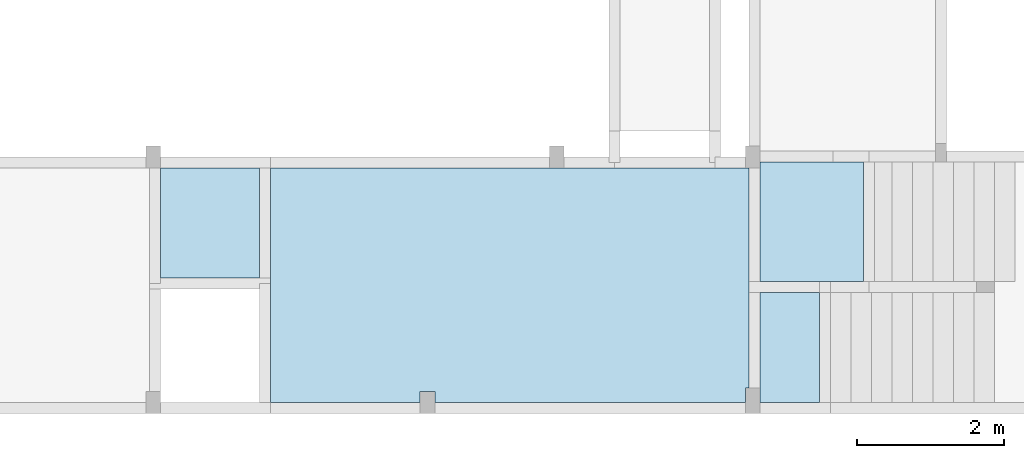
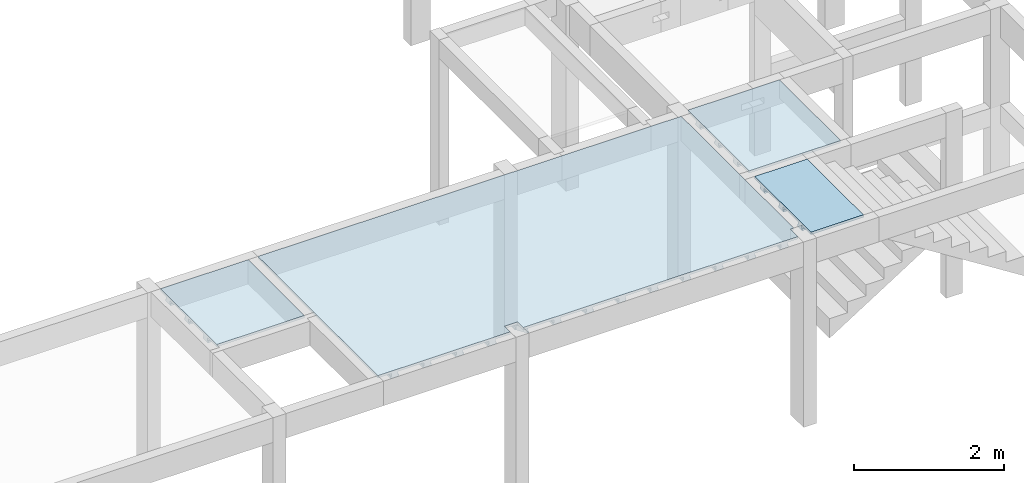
# One storey, part 14 of 21: 4 slabs.
"""IFC4 building model written with IfcOpenShell, lengths in centimetres."""

import ifcopenshell
import ifcopenshell.guid

model = None  # the IFC model being written
_history = None  # IfcOwnerHistory: only IFC2X3 demands one
_inside = {}  # id of a spatial element -> (the spatial element, [elements in it])
_under = {}  # id of a project, library or spatial element -> (it, [spatial elements below it])
_declared = {}  # id of a project -> (the project, [libraries it declares])
_typed = {}  # id of a type object -> (the type object, [elements of that type])
_made_of = {}  # id of a material, layer set ... -> (it, [elements and type objects made of it])


def new_model(schema):
    """Start an empty IFC model of exactly this schema.

    Asked for "IFC4X3", IfcOpenShell would pick the latest addendum, in which some entities
    have other attributes; the version numbers below select the first issue.
    IFC2X3 requires an IfcOwnerHistory on every rooted entity: one is made here for all.
    """
    global model, _history
    if schema == "IFC4X3":
        model = ifcopenshell.file(schema_version=(4, 3, 0, 0))
    else:
        model = ifcopenshell.file(schema=schema)
    _inside.clear()
    _under.clear()
    _declared.clear()
    _typed.clear()
    _made_of.clear()
    _history = None
    if model.schema == "IFC2X3":
        org = make("IfcOrganization", Name="unknown")
        user = make(
            "IfcPersonAndOrganization",
            ThePerson=make("IfcPerson", FamilyName="unknown"),
            TheOrganization=org,
        )
        app = make(
            "IfcApplication",
            ApplicationDeveloper=org,
            Version="unknown",
            ApplicationFullName="unknown",
            ApplicationIdentifier="unknown",
        )
        _history = make(
            "IfcOwnerHistory",
            OwningUser=user,
            OwningApplication=app,
            ChangeAction="ADDED",
            CreationDate=0,
        )
    return model


def make(cls, **values):
    """One entity of the class cls with the attributes given. An attribute that is None is left unset."""
    return model.create_entity(
        cls, **{name: value for name, value in values.items() if value is not None}
    )


def rooted(cls, **values):
    """An entity with a GlobalId (a new one), such as an element, a storey or a relation."""
    return make(cls, GlobalId=ifcopenshell.guid.new(), OwnerHistory=_history, **values)


def si_unit(unit_type, name, prefix=None):
    """IfcSIUnit, for example si_unit("LENGTHUNIT", "METRE", prefix="MILLI")."""
    return make("IfcSIUnit", UnitType=unit_type, Prefix=prefix, Name=name)


def derived_unit(unit_type, elements):
    """IfcDerivedUnit: a product of units, each with its exponent."""
    return make(
        "IfcDerivedUnit",
        Elements=[
            make("IfcDerivedUnitElement", Unit=unit, Exponent=power)
            for unit, power in elements
        ],
        UnitType=unit_type,
    )


def assignment(units):
    """IfcUnitAssignment: the units of a project."""
    return None if units is None else make("IfcUnitAssignment", Units=units)


def point(xyz):
    """IfcCartesianPoint."""
    return None if xyz is None else make("IfcCartesianPoint", Coordinates=xyz)


def direction(xyz):
    """IfcDirection."""
    return None if xyz is None else make("IfcDirection", DirectionRatios=xyz)


def frame(location, z_axis=None, x_axis=None):
    """IfcAxis2Placement3D, a coordinate frame: its origin and axes. An axis left out is left unset."""
    return make(
        "IfcAxis2Placement3D",
        Location=point(location),
        Axis=direction(z_axis),
        RefDirection=direction(x_axis),
    )


def origin_with_axes():
    """The frame at (0, 0, 0) with the z axis (0, 0, 1) and the x axis (1, 0, 0) written out."""
    return frame((0.0, 0.0, 0.0), z_axis=(0.0, 0.0, 1.0), x_axis=(1.0, 0.0, 0.0))


def place(relative_to, where):
    """IfcLocalPlacement: puts the frame where relative to a parent placement (None: the world)."""
    return make(
        "IfcLocalPlacement", PlacementRelTo=relative_to, RelativePlacement=where
    )


def context(
    kind, dimensions, precision=None, world=None, true_north=None, identifier=None
):
    """IfcGeometricRepresentationContext, for example the 3D "Model" context."""
    return make(
        "IfcGeometricRepresentationContext",
        ContextIdentifier=identifier,
        ContextType=kind,
        CoordinateSpaceDimension=dimensions,
        Precision=precision,
        WorldCoordinateSystem=world,
        TrueNorth=true_north,
    )


def project(units=None, contexts=None):
    """IfcProject with its units and contexts."""
    return rooted(
        "IfcProject",
        Name="project",
        RepresentationContexts=contexts,
        UnitsInContext=assignment(units),
    )


def spatial(cls, under=None, at=None, **own):
    """A site, building, storey or space (cls), placed at a placement, below another one or the project."""
    s = rooted(cls, ObjectPlacement=at, **own)
    if under is not None:
        _under.setdefault(under.id(), (under, []))[1].append(s)
    return s


def polyline(points):
    """IfcPolyline through the points."""
    return make("IfcPolyline", Points=[point(p) for p in points])


def outline(outer, holes=None, kind="AREA"):
    """IfcArbitraryClosedProfileDef: a profile drawn as a closed curve; with holes, ...WithVoids."""
    if holes is None:
        return make("IfcArbitraryClosedProfileDef", ProfileType=kind, OuterCurve=outer)
    return make(
        "IfcArbitraryProfileDefWithVoids",
        ProfileType=kind,
        OuterCurve=outer,
        InnerCurves=holes,
    )


def extrude(swept, where, along, depth):
    """IfcExtrudedAreaSolid: the profile swept, set in the frame where, extruded along a direction by depth."""
    return make(
        "IfcExtrudedAreaSolid",
        SweptArea=swept,
        Position=where,
        ExtrudedDirection=direction(along),
        Depth=depth,
    )


def faces_of(points, faces, orient=None, outer=None):
    """IfcFace entities. A face is a list of loops; a loop is a list of indices into points, from 0.

    orient and outer hold one flag for each loop. By default every Orientation is true, the
    first loop of a face is its IfcFaceOuterBound and the others are IfcFaceBound.
    """
    made = []
    for i, loops in enumerate(faces):
        bounds = []
        for j, loop in enumerate(loops):
            is_outer = j == 0 if outer is None else outer[i][j]
            bounds.append(
                make(
                    "IfcFaceOuterBound" if is_outer else "IfcFaceBound",
                    Bound=make("IfcPolyLoop", Polygon=[points[k] for k in loop]),
                    Orientation=True if orient is None else orient[i][j],
                )
            )
        made.append(make("IfcFace", Bounds=bounds))
    return made


def faceted_brep(points, faces, orient=None, outer=None, voids=None):
    """IfcFacetedBrep: a solid bounded by flat faces; with voids (closed shells), ...WithVoids."""
    shared = [point(p) for p in points]
    hull = make("IfcClosedShell", CfsFaces=faces_of(shared, faces, orient, outer))
    if voids is None:
        return make("IfcFacetedBrep", Outer=hull)
    return make(
        "IfcFacetedBrepWithVoids",
        Outer=hull,
        Voids=[
            make(cls, CfsFaces=faces_of(shared, fs, o, b)) for cls, fs, o, b in voids
        ],
    )


def shape(context_of_items, identifier, shape_type, items):
    """IfcShapeRepresentation: the items that make up one representation, for example the "Body"."""
    return make(
        "IfcShapeRepresentation",
        ContextOfItems=context_of_items,
        RepresentationIdentifier=identifier,
        RepresentationType=shape_type,
        Items=items,
    )


def material(Name=None, Category=None):
    """IfcMaterial."""
    return make("IfcMaterial", Name=Name, Category=Category)


def made_of(thing, what):
    """Note that an element or type object is made of a material, layer set ...; save() writes the relation."""
    if what is not None:
        _made_of.setdefault(what.id(), (what, []))[1].append(thing)
    return thing


def element(
    cls,
    number,
    at=None,
    inside=None,
    cuts=None,
    type_object=None,
    material=None,
    context=None,
    identifier="Body",
    shape_type=None,
    held_by="IfcProductDefinitionShape",
    body=None,
    shapes=None,
    **own,
):
    """One element of the class cls, such as IfcWall. Its Tag is "e" and its number.

    at: its placement. inside: the storey or other place that contains it. cuts: it is an
    opening in that element (IfcRelVoidsElement). A single representation is given by context,
    identifier, shape_type and body (its items); several are given by shapes. held_by: the class
    of the entity that holds the representations. save() writes the other relations.
    """
    e = rooted(cls, Tag="e%d" % number, ObjectPlacement=at, **own)
    if body is not None:
        shapes = [shape(context, identifier, shape_type, body)]
    if shapes is not None:
        e.Representation = make(held_by, Representations=shapes)
    if inside is not None:
        _inside.setdefault(inside.id(), (inside, []))[1].append(e)
    if cuts is not None:
        rooted(
            "IfcRelVoidsElement", RelatingBuildingElement=cuts, RelatedOpeningElement=e
        )
    if type_object is not None:
        _typed.setdefault(type_object.id(), (type_object, []))[1].append(e)
    return made_of(e, material)


def aggregate(whole, parts):
    """IfcRelAggregates: a whole, such as a stair, and the parts it consists of."""
    return rooted("IfcRelAggregates", RelatingObject=whole, RelatedObjects=parts)


def save(model, path):
    """Write the relations noted so far, then the file.

    IfcRelAggregates (storeys below a building ...), IfcRelContainedInSpatialStructure (elements
    in a storey), IfcRelDefinesByType, IfcRelAssociatesMaterial and IfcRelDeclares: one each for
    every whole, place, type object, material and project.
    """
    for whole, parts in _under.values():
        aggregate(whole, parts)
    for where, things in _inside.values():
        rooted(
            "IfcRelContainedInSpatialStructure",
            RelatedElements=things,
            RelatingStructure=where,
        )
    for kind, things in _typed.values():
        rooted("IfcRelDefinesByType", RelatedObjects=things, RelatingType=kind)
    for what, things in _made_of.values():
        rooted("IfcRelAssociatesMaterial", RelatedObjects=things, RelatingMaterial=what)
    for by, libraries in _declared.values():
        rooted("IfcRelDeclares", RelatingContext=by, RelatedDefinitions=libraries)
    model.write(path)


model = new_model("IFC4")

# Units and contexts
model_context = context("Model", 3, precision=1e-05, world=origin_with_axes(), identifier="Body")
ifc_project = project(units=[si_unit("LENGTHUNIT", "METRE", prefix="CENTI"), si_unit("VOLUMEUNIT", "CUBIC_METRE"), si_unit("AREAUNIT", "SQUARE_METRE"), si_unit("POWERUNIT", "WATT"), si_unit("LUMINOUSFLUXUNIT", "LUMEN"), si_unit("ELECTRICCURRENTUNIT", "AMPERE"), si_unit("PRESSUREUNIT", "PASCAL", prefix="KILO"), si_unit("MASSUNIT", "GRAM", prefix="KILO"), si_unit("PLANEANGLEUNIT", "RADIAN"), derived_unit("VOLUMETRICFLOWRATEUNIT", [(si_unit("LENGTHUNIT", "METRE"), 3), (si_unit("TIMEUNIT", "SECOND"), -1)])], contexts=[model_context])

# Site, building, storey
site_placement = place(None, origin_with_axes())
site = spatial("IfcSite", under=ifc_project, at=site_placement)
building_placement = place(site_placement, frame((0.0, 0.0, -295.0)))
building = spatial("IfcBuilding", under=site, at=building_placement)
placement_1 = place(building_placement, origin_with_axes())
placement_2 = place(placement_1, frame((0.0, 0.0, 101.0), z_axis=(0.0, 0.0, 1.0), x_axis=(1.0, 0.0, 0.0)))
placement_3 = place(placement_2, frame((0.0, 0.0, 204.0), z_axis=(0.0, 0.0, 1.0), x_axis=(1.0, 0.0, 0.0)))
placement_4 = place(placement_3, frame((0.0, 0.0, 292.0), z_axis=(0.0, 0.0, 1.0), x_axis=(1.0, 0.0, 0.0)))
storey_placement = place(placement_4, frame((0.0, 0.0, 302.0), z_axis=(0.0, 0.0, 1.0), x_axis=(1.0, 0.0, 0.0)))
storey = spatial("IfcBuildingStorey", under=building, at=storey_placement, Name="PAVTO 02", CompositionType="ELEMENT", Elevation=604.0)

# Slabs
ifc_material = material(Name="Concreto")
slab_1_placement = place(storey_placement, frame((2771.1, -6919.17, 0.0), z_axis=(0.0, 0.0, 1.0), x_axis=(1.0, 0.0, 0.0)))
element("IfcSlab", 1, at=slab_1_placement, inside=storey, material=ifc_material, Name="L242", PredefinedType="FLOOR", context=model_context, shape_type="SolidModel", body=[
    extrude(outline(polyline([(67.5, 74.97), (-67.5, 74.97), (-67.499, -74.97), (67.5, -74.97), (67.5, 74.97), (67.5, 74.97)])), frame((0.0, 0.0, -4.0), z_axis=(0.0, 0.0, 1.0), x_axis=(1.0, 0.0, 0.0)), (0.0, 0.0, 1.0), 4.0),
    faceted_brep([(-67.4995, -40.0, -12.0), (67.5, -40.0, -12.0), (67.5, -50.0, -12.0), (-67.4995, -50.0, -12.0), (-67.4995, -50.0, -4.0), (67.5, -50.0, -4.0), (67.5, -40.0, -4.0), (-67.4995, -40.0, -4.0)], [[[0, 1, 2, 3]], [[4, 5, 6, 7]], [[4, 3, 5]], [[3, 2, 5]], [[5, 2, 6]], [[2, 1, 6]], [[6, 1, 7]], [[1, 0, 7]], [[7, 0, 4]], [[0, 3, 4]]]),
    faceted_brep([(-67.4995, -38.5, -12.0), (67.5, -38.5, -12.0), (67.5, -40.0, -12.0), (-67.4995, -40.0, -12.0), (-67.4995, -40.0, -9.0), (67.5, -40.0, -9.0), (67.5, -38.5, -9.0), (-67.4995, -38.5, -9.0)], [[[0, 1, 2, 3]], [[4, 5, 6, 7]], [[4, 3, 5]], [[3, 2, 5]], [[5, 2, 6]], [[2, 1, 6]], [[6, 1, 7]], [[1, 0, 7]], [[7, 0, 4]], [[0, 3, 4]]]),
    faceted_brep([(-67.4995, -50.0, -12.0), (67.5, -50.0, -12.0), (67.5, -51.5, -12.0), (-67.4995, -51.5, -12.0), (-67.4995, -51.5, -9.0), (67.5, -51.5, -9.0), (67.5, -50.0, -9.0), (-67.4995, -50.0, -9.0)], [[[0, 1, 2, 3]], [[4, 5, 6, 7]], [[4, 3, 5]], [[3, 2, 5]], [[5, 2, 6]], [[2, 1, 6]], [[6, 1, 7]], [[1, 0, 7]], [[7, 0, 4]], [[0, 3, 4]]]),
    faceted_brep([(-67.4995, 10.0, -12.0), (67.5, 10.0, -12.0), (67.5, 0.0, -12.0), (-67.4995, 0.0, -12.0), (-67.4995, 0.0, -4.0), (67.5, 0.0, -4.0), (67.5, 10.0, -4.0), (-67.4995, 10.0, -4.0)], [[[0, 1, 2, 3]], [[4, 5, 6, 7]], [[4, 3, 5]], [[3, 2, 5]], [[5, 2, 6]], [[2, 1, 6]], [[6, 1, 7]], [[1, 0, 7]], [[7, 0, 4]], [[0, 3, 4]]]),
    faceted_brep([(-67.4995, 11.5, -12.0), (67.5, 11.5, -12.0), (67.5, 10.0, -12.0), (-67.4995, 10.0, -12.0), (-67.4995, 10.0, -9.0), (67.5, 10.0, -9.0), (67.5, 11.5, -9.0), (-67.4995, 11.5, -9.0)], [[[0, 1, 2, 3]], [[4, 5, 6, 7]], [[4, 3, 5]], [[3, 2, 5]], [[5, 2, 6]], [[2, 1, 6]], [[6, 1, 7]], [[1, 0, 7]], [[7, 0, 4]], [[0, 3, 4]]]),
    faceted_brep([(-67.4995, 0.0, -12.0), (67.5, 0.0, -12.0), (67.5, -1.5, -12.0), (-67.4995, -1.5, -12.0), (-67.4995, -1.5, -9.0), (67.5, -1.5, -9.0), (67.5, 0.0, -9.0), (-67.4995, 0.0, -9.0)], [[[0, 1, 2, 3]], [[4, 5, 6, 7]], [[4, 3, 5]], [[3, 2, 5]], [[5, 2, 6]], [[2, 1, 6]], [[6, 1, 7]], [[1, 0, 7]], [[7, 0, 4]], [[0, 3, 4]]]),
    faceted_brep([(-67.4995, 60.0, -12.0), (67.5, 60.0, -12.0), (67.5, 50.0, -12.0), (-67.4995, 50.0, -12.0), (-67.4995, 50.0, -4.0), (67.5, 50.0, -4.0), (67.5, 60.0, -4.0), (-67.4995, 60.0, -4.0)], [[[0, 1, 2, 3]], [[4, 5, 6, 7]], [[4, 3, 5]], [[3, 2, 5]], [[5, 2, 6]], [[2, 1, 6]], [[6, 1, 7]], [[1, 0, 7]], [[7, 0, 4]], [[0, 3, 4]]]),
    faceted_brep([(-67.4995, 61.5, -12.0), (67.5, 61.5, -12.0), (67.5, 60.0, -12.0), (-67.4995, 60.0, -12.0), (-67.4995, 60.0, -9.0), (67.5, 60.0, -9.0), (67.5, 61.5, -9.0), (-67.4995, 61.5, -9.0)], [[[0, 1, 2, 3]], [[4, 5, 6, 7]], [[4, 3, 5]], [[3, 2, 5]], [[5, 2, 6]], [[2, 1, 6]], [[6, 1, 7]], [[1, 0, 7]], [[7, 0, 4]], [[0, 3, 4]]]),
    faceted_brep([(-67.4995, 50.0, -12.0), (67.5, 50.0, -12.0), (67.5, 48.5, -12.0), (-67.4995, 48.5, -12.0), (-67.4995, 48.5, -9.0), (67.5, 48.5, -9.0), (67.5, 50.0, -9.0), (-67.4995, 50.0, -9.0)], [[[0, 1, 2, 3]], [[4, 5, 6, 7]], [[4, 3, 5]], [[3, 2, 5]], [[5, 2, 6]], [[2, 1, 6]], [[6, 1, 7]], [[1, 0, 7]], [[7, 0, 4]], [[0, 3, 4]]]),
])
slab_2_placement = place(storey_placement, frame((3179.6645, -7004.255, 0.0), z_axis=(0.0, 0.0, 1.0), x_axis=(1.0, 0.0, 0.0)))
element("IfcSlab", 2, at=slab_2_placement, inside=storey, material=ifc_material, Name="L243", PredefinedType="FLOOR", context=model_context, shape_type="SolidModel", body=[
    extrude(outline(polyline([(321.065, -140.055), (326.064, -140.054), (326.064, 160.055), (-326.064, 160.054), (-326.065, -160.055), (-122.125, -160.054), (-122.125, -145.055), (-102.125, -145.055), (-102.125, -160.055), (321.065, -160.055), (321.065, -140.055), (321.065, -140.055)])), frame((0.0005, 0.0, -4.0), z_axis=(0.0, 0.0, 1.0), x_axis=(1.0, 0.0, 0.0)), (0.0, 0.0, 1.0), 4.0),
    faceted_brep([(-4.9995, -160.055, -12.0), (-4.9995, 160.0545, -12.0), (5.0005, 160.0545, -12.0), (5.0005, -160.055, -12.0), (5.0005, -160.055, -4.0), (5.0005, 160.0545, -4.0), (-4.9995, 160.0545, -4.0), (-4.9995, -160.055, -4.0)], [[[0, 1, 2, 3]], [[4, 5, 6, 7]], [[4, 3, 5]], [[3, 2, 5]], [[5, 2, 6]], [[2, 1, 6]], [[6, 1, 7]], [[1, 0, 7]], [[7, 0, 4]], [[0, 3, 4]]]),
    faceted_brep([(-6.4995, -160.055, -12.0), (-6.4995, 160.0545, -12.0), (-4.9995, 160.0545, -12.0), (-4.9995, -160.055, -12.0), (-4.9995, -160.055, -9.0), (-4.9995, 160.0545, -9.0), (-6.4995, 160.0545, -9.0), (-6.4995, -160.055, -9.0)], [[[0, 1, 2, 3]], [[4, 5, 6, 7]], [[4, 3, 5]], [[3, 2, 5]], [[5, 2, 6]], [[2, 1, 6]], [[6, 1, 7]], [[1, 0, 7]], [[7, 0, 4]], [[0, 3, 4]]]),
    faceted_brep([(5.0005, -160.055, -12.0), (5.0005, 160.0545, -12.0), (6.5005, 160.0545, -12.0), (6.5005, -160.055, -12.0), (6.5005, -160.055, -9.0), (6.5005, 160.0545, -9.0), (5.0005, 160.0545, -9.0), (5.0005, -160.055, -9.0)], [[[0, 1, 2, 3]], [[4, 5, 6, 7]], [[4, 3, 5]], [[3, 2, 5]], [[5, 2, 6]], [[2, 1, 6]], [[6, 1, 7]], [[1, 0, 7]], [[7, 0, 4]], [[0, 3, 4]]]),
    faceted_brep([(-54.9995, -160.055, -12.0), (-54.9995, 160.0545, -12.0), (-44.9995, 160.0545, -12.0), (-44.9995, -160.055, -12.0), (-44.9995, -160.055, -4.0), (-44.9995, 160.0545, -4.0), (-54.9995, 160.0545, -4.0), (-54.9995, -160.055, -4.0)], [[[0, 1, 2, 3]], [[4, 5, 6, 7]], [[4, 3, 5]], [[3, 2, 5]], [[5, 2, 6]], [[2, 1, 6]], [[6, 1, 7]], [[1, 0, 7]], [[7, 0, 4]], [[0, 3, 4]]]),
    faceted_brep([(-56.4995, -160.055, -12.0), (-56.4995, 160.0545, -12.0), (-54.9995, 160.0545, -12.0), (-54.9995, -160.055, -12.0), (-54.9995, -160.055, -9.0), (-54.9995, 160.0545, -9.0), (-56.4995, 160.0545, -9.0), (-56.4995, -160.055, -9.0)], [[[0, 1, 2, 3]], [[4, 5, 6, 7]], [[4, 3, 5]], [[3, 2, 5]], [[5, 2, 6]], [[2, 1, 6]], [[6, 1, 7]], [[1, 0, 7]], [[7, 0, 4]], [[0, 3, 4]]]),
    faceted_brep([(-44.9995, -160.055, -12.0), (-44.9995, 160.0545, -12.0), (-43.4995, 160.0545, -12.0), (-43.4995, -160.055, -12.0), (-43.4995, -160.055, -9.0), (-43.4995, 160.0545, -9.0), (-44.9995, 160.0545, -9.0), (-44.9995, -160.055, -9.0)], [[[0, 1, 2, 3]], [[4, 5, 6, 7]], [[4, 3, 5]], [[3, 2, 5]], [[5, 2, 6]], [[2, 1, 6]], [[6, 1, 7]], [[1, 0, 7]], [[7, 0, 4]], [[0, 3, 4]]]),
    faceted_brep([(-104.9995, -145.055, -12.0), (-104.9995, 160.0545, -12.0), (-94.9995, 160.0545, -12.0), (-94.9995, -160.055, -12.0), (-94.9995, -160.055, -4.0), (-94.9995, 160.0545, -4.0), (-104.9995, 160.0545, -4.0), (-104.9995, -145.055, -4.0)], [[[0, 1, 2, 3]], [[4, 5, 6, 7]], [[4, 3, 5]], [[3, 2, 5]], [[5, 2, 6]], [[2, 1, 6]], [[6, 1, 7]], [[1, 0, 7]], [[7, 0, 4]], [[0, 3, 4]]]),
    faceted_brep([(-106.4995, -145.055, -12.0), (-106.4995, 160.0545, -12.0), (-104.9995, 160.0545, -12.0), (-104.9995, -145.055, -12.0), (-104.9995, -145.055, -9.0), (-104.9995, 160.0545, -9.0), (-106.4995, 160.0545, -9.0), (-106.4995, -145.055, -9.0)], [[[0, 1, 2, 3]], [[4, 5, 6, 7]], [[4, 3, 5]], [[3, 2, 5]], [[5, 2, 6]], [[2, 1, 6]], [[6, 1, 7]], [[1, 0, 7]], [[7, 0, 4]], [[0, 3, 4]]]),
    faceted_brep([(-94.9995, -160.055, -12.0), (-94.9995, 160.0545, -12.0), (-93.4995, 160.0545, -12.0), (-93.4995, -160.055, -12.0), (-93.4995, -160.055, -9.0), (-93.4995, 160.0545, -9.0), (-94.9995, 160.0545, -9.0), (-94.9995, -160.055, -9.0)], [[[0, 1, 2, 3]], [[4, 5, 6, 7]], [[4, 3, 5]], [[3, 2, 5]], [[5, 2, 6]], [[2, 1, 6]], [[6, 1, 7]], [[1, 0, 7]], [[7, 0, 4]], [[0, 3, 4]]]),
    faceted_brep([(-154.9995, -160.0545, -12.0), (-154.9995, 160.0545, -12.0), (-144.9995, 160.0545, -12.0), (-144.9995, -160.0545, -12.0), (-144.9995, -160.0545, -4.0), (-144.9995, 160.0545, -4.0), (-154.9995, 160.0545, -4.0), (-154.9995, -160.0545, -4.0)], [[[0, 1, 2, 3]], [[4, 5, 6, 7]], [[4, 3, 5]], [[3, 2, 5]], [[5, 2, 6]], [[2, 1, 6]], [[6, 1, 7]], [[1, 0, 7]], [[7, 0, 4]], [[0, 3, 4]]]),
    faceted_brep([(-156.4995, -160.0545, -12.0), (-156.4995, 160.0545, -12.0), (-154.9995, 160.0545, -12.0), (-154.9995, -160.0545, -12.0), (-154.9995, -160.0545, -9.0), (-154.9995, 160.0545, -9.0), (-156.4995, 160.0545, -9.0), (-156.4995, -160.0545, -9.0)], [[[0, 1, 2, 3]], [[4, 5, 6, 7]], [[4, 3, 5]], [[3, 2, 5]], [[5, 2, 6]], [[2, 1, 6]], [[6, 1, 7]], [[1, 0, 7]], [[7, 0, 4]], [[0, 3, 4]]]),
    faceted_brep([(-144.9995, -160.0545, -12.0), (-144.9995, 160.0545, -12.0), (-143.4995, 160.0545, -12.0), (-143.4995, -160.0545, -12.0), (-143.4995, -160.0545, -9.0), (-143.4995, 160.0545, -9.0), (-144.9995, 160.0545, -9.0), (-144.9995, -160.0545, -9.0)], [[[0, 1, 2, 3]], [[4, 5, 6, 7]], [[4, 3, 5]], [[3, 2, 5]], [[5, 2, 6]], [[2, 1, 6]], [[6, 1, 7]], [[1, 0, 7]], [[7, 0, 4]], [[0, 3, 4]]]),
    faceted_brep([(-204.9995, -160.0545, -12.0), (-204.9995, 160.0545, -12.0), (-194.9995, 160.0545, -12.0), (-194.9995, -160.0545, -12.0), (-194.9995, -160.0545, -4.0), (-194.9995, 160.0545, -4.0), (-204.9995, 160.0545, -4.0), (-204.9995, -160.0545, -4.0)], [[[0, 1, 2, 3]], [[4, 5, 6, 7]], [[4, 3, 5]], [[3, 2, 5]], [[5, 2, 6]], [[2, 1, 6]], [[6, 1, 7]], [[1, 0, 7]], [[7, 0, 4]], [[0, 3, 4]]]),
    faceted_brep([(-206.4995, -160.0545, -12.0), (-206.4995, 160.0545, -12.0), (-204.9995, 160.0545, -12.0), (-204.9995, -160.0545, -12.0), (-204.9995, -160.0545, -9.0), (-204.9995, 160.0545, -9.0), (-206.4995, 160.0545, -9.0), (-206.4995, -160.0545, -9.0)], [[[0, 1, 2, 3]], [[4, 5, 6, 7]], [[4, 3, 5]], [[3, 2, 5]], [[5, 2, 6]], [[2, 1, 6]], [[6, 1, 7]], [[1, 0, 7]], [[7, 0, 4]], [[0, 3, 4]]]),
    faceted_brep([(-194.9995, -160.0545, -12.0), (-194.9995, 160.0545, -12.0), (-193.4995, 160.0545, -12.0), (-193.4995, -160.0545, -12.0), (-193.4995, -160.0545, -9.0), (-193.4995, 160.0545, -9.0), (-194.9995, 160.0545, -9.0), (-194.9995, -160.0545, -9.0)], [[[0, 1, 2, 3]], [[4, 5, 6, 7]], [[4, 3, 5]], [[3, 2, 5]], [[5, 2, 6]], [[2, 1, 6]], [[6, 1, 7]], [[1, 0, 7]], [[7, 0, 4]], [[0, 3, 4]]]),
    faceted_brep([(-254.9995, -160.0545, -12.0), (-254.9995, 160.0545, -12.0), (-244.9995, 160.0545, -12.0), (-244.9995, -160.0545, -12.0), (-244.9995, -160.0545, -4.0), (-244.9995, 160.0545, -4.0), (-254.9995, 160.0545, -4.0), (-254.9995, -160.0545, -4.0)], [[[0, 1, 2, 3]], [[4, 5, 6, 7]], [[4, 3, 5]], [[3, 2, 5]], [[5, 2, 6]], [[2, 1, 6]], [[6, 1, 7]], [[1, 0, 7]], [[7, 0, 4]], [[0, 3, 4]]]),
    faceted_brep([(-256.4995, -160.0545, -12.0), (-256.4995, 160.0545, -12.0), (-254.9995, 160.0545, -12.0), (-254.9995, -160.0545, -12.0), (-254.9995, -160.0545, -9.0), (-254.9995, 160.0545, -9.0), (-256.4995, 160.0545, -9.0), (-256.4995, -160.0545, -9.0)], [[[0, 1, 2, 3]], [[4, 5, 6, 7]], [[4, 3, 5]], [[3, 2, 5]], [[5, 2, 6]], [[2, 1, 6]], [[6, 1, 7]], [[1, 0, 7]], [[7, 0, 4]], [[0, 3, 4]]]),
    faceted_brep([(-244.9995, -160.0545, -12.0), (-244.9995, 160.0545, -12.0), (-243.4995, 160.0545, -12.0), (-243.4995, -160.0545, -12.0), (-243.4995, -160.0545, -9.0), (-243.4995, 160.0545, -9.0), (-244.9995, 160.0545, -9.0), (-244.9995, -160.0545, -9.0)], [[[0, 1, 2, 3]], [[4, 5, 6, 7]], [[4, 3, 5]], [[3, 2, 5]], [[5, 2, 6]], [[2, 1, 6]], [[6, 1, 7]], [[1, 0, 7]], [[7, 0, 4]], [[0, 3, 4]]]),
    faceted_brep([(-304.9995, -160.0545, -12.0), (-304.9995, 160.0545, -12.0), (-294.9995, 160.0545, -12.0), (-294.9995, -160.0545, -12.0), (-294.9995, -160.0545, -4.0), (-294.9995, 160.0545, -4.0), (-304.9995, 160.0545, -4.0), (-304.9995, -160.0545, -4.0)], [[[0, 1, 2, 3]], [[4, 5, 6, 7]], [[4, 3, 5]], [[3, 2, 5]], [[5, 2, 6]], [[2, 1, 6]], [[6, 1, 7]], [[1, 0, 7]], [[7, 0, 4]], [[0, 3, 4]]]),
    faceted_brep([(-306.4995, -160.0545, -12.0), (-306.4995, 160.0545, -12.0), (-304.9995, 160.0545, -12.0), (-304.9995, -160.0545, -12.0), (-304.9995, -160.0545, -9.0), (-304.9995, 160.0545, -9.0), (-306.4995, 160.0545, -9.0), (-306.4995, -160.0545, -9.0)], [[[0, 1, 2, 3]], [[4, 5, 6, 7]], [[4, 3, 5]], [[3, 2, 5]], [[5, 2, 6]], [[2, 1, 6]], [[6, 1, 7]], [[1, 0, 7]], [[7, 0, 4]], [[0, 3, 4]]]),
    faceted_brep([(-294.9995, -160.0545, -12.0), (-294.9995, 160.0545, -12.0), (-293.4995, 160.0545, -12.0), (-293.4995, -160.0545, -12.0), (-293.4995, -160.0545, -9.0), (-293.4995, 160.0545, -9.0), (-294.9995, 160.0545, -9.0), (-294.9995, -160.0545, -9.0)], [[[0, 1, 2, 3]], [[4, 5, 6, 7]], [[4, 3, 5]], [[3, 2, 5]], [[5, 2, 6]], [[2, 1, 6]], [[6, 1, 7]], [[1, 0, 7]], [[7, 0, 4]], [[0, 3, 4]]]),
    faceted_brep([(45.0005, -160.055, -12.0), (45.0005, 160.0545, -12.0), (55.0005, 160.0545, -12.0), (55.0005, -160.055, -12.0), (55.0005, -160.055, -4.0), (55.0005, 160.0545, -4.0), (45.0005, 160.0545, -4.0), (45.0005, -160.055, -4.0)], [[[0, 1, 2, 3]], [[4, 5, 6, 7]], [[4, 3, 5]], [[3, 2, 5]], [[5, 2, 6]], [[2, 1, 6]], [[6, 1, 7]], [[1, 0, 7]], [[7, 0, 4]], [[0, 3, 4]]]),
    faceted_brep([(43.5005, -160.055, -12.0), (43.5005, 160.0545, -12.0), (45.0005, 160.0545, -12.0), (45.0005, -160.055, -12.0), (45.0005, -160.055, -9.0), (45.0005, 160.0545, -9.0), (43.5005, 160.0545, -9.0), (43.5005, -160.055, -9.0)], [[[0, 1, 2, 3]], [[4, 5, 6, 7]], [[4, 3, 5]], [[3, 2, 5]], [[5, 2, 6]], [[2, 1, 6]], [[6, 1, 7]], [[1, 0, 7]], [[7, 0, 4]], [[0, 3, 4]]]),
    faceted_brep([(55.0005, -160.055, -12.0), (55.0005, 160.0545, -12.0), (56.5005, 160.0545, -12.0), (56.5005, -160.055, -12.0), (56.5005, -160.055, -9.0), (56.5005, 160.0545, -9.0), (55.0005, 160.0545, -9.0), (55.0005, -160.055, -9.0)], [[[0, 1, 2, 3]], [[4, 5, 6, 7]], [[4, 3, 5]], [[3, 2, 5]], [[5, 2, 6]], [[2, 1, 6]], [[6, 1, 7]], [[1, 0, 7]], [[7, 0, 4]], [[0, 3, 4]]]),
    faceted_brep([(95.0005, -160.055, -12.0), (95.0005, 160.0545, -12.0), (105.0005, 160.0545, -12.0), (105.0005, -160.055, -12.0), (105.0005, -160.055, -4.0), (105.0005, 160.0545, -4.0), (95.0005, 160.0545, -4.0), (95.0005, -160.055, -4.0)], [[[0, 1, 2, 3]], [[4, 5, 6, 7]], [[4, 3, 5]], [[3, 2, 5]], [[5, 2, 6]], [[2, 1, 6]], [[6, 1, 7]], [[1, 0, 7]], [[7, 0, 4]], [[0, 3, 4]]]),
    faceted_brep([(93.5005, -160.055, -12.0), (93.5005, 160.0545, -12.0), (95.0005, 160.0545, -12.0), (95.0005, -160.055, -12.0), (95.0005, -160.055, -9.0), (95.0005, 160.0545, -9.0), (93.5005, 160.0545, -9.0), (93.5005, -160.055, -9.0)], [[[0, 1, 2, 3]], [[4, 5, 6, 7]], [[4, 3, 5]], [[3, 2, 5]], [[5, 2, 6]], [[2, 1, 6]], [[6, 1, 7]], [[1, 0, 7]], [[7, 0, 4]], [[0, 3, 4]]]),
    faceted_brep([(105.0005, -160.055, -12.0), (105.0005, 160.0545, -12.0), (106.5005, 160.0545, -12.0), (106.5005, -160.055, -12.0), (106.5005, -160.055, -9.0), (106.5005, 160.0545, -9.0), (105.0005, 160.0545, -9.0), (105.0005, -160.055, -9.0)], [[[0, 1, 2, 3]], [[4, 5, 6, 7]], [[4, 3, 5]], [[3, 2, 5]], [[5, 2, 6]], [[2, 1, 6]], [[6, 1, 7]], [[1, 0, 7]], [[7, 0, 4]], [[0, 3, 4]]]),
    faceted_brep([(145.0005, -160.055, -12.0), (145.0005, 160.0545, -12.0), (155.0005, 160.0545, -12.0), (155.0005, -160.055, -12.0), (155.0005, -160.055, -4.0), (155.0005, 160.0545, -4.0), (145.0005, 160.0545, -4.0), (145.0005, -160.055, -4.0)], [[[0, 1, 2, 3]], [[4, 5, 6, 7]], [[4, 3, 5]], [[3, 2, 5]], [[5, 2, 6]], [[2, 1, 6]], [[6, 1, 7]], [[1, 0, 7]], [[7, 0, 4]], [[0, 3, 4]]]),
    faceted_brep([(143.5005, -160.055, -12.0), (143.5005, 160.0545, -12.0), (145.0005, 160.0545, -12.0), (145.0005, -160.055, -12.0), (145.0005, -160.055, -9.0), (145.0005, 160.0545, -9.0), (143.5005, 160.0545, -9.0), (143.5005, -160.055, -9.0)], [[[0, 1, 2, 3]], [[4, 5, 6, 7]], [[4, 3, 5]], [[3, 2, 5]], [[5, 2, 6]], [[2, 1, 6]], [[6, 1, 7]], [[1, 0, 7]], [[7, 0, 4]], [[0, 3, 4]]]),
    faceted_brep([(155.0005, -160.055, -12.0), (155.0005, 160.0545, -12.0), (156.5005, 160.0545, -12.0), (156.5005, -160.055, -12.0), (156.5005, -160.055, -9.0), (156.5005, 160.0545, -9.0), (155.0005, 160.0545, -9.0), (155.0005, -160.055, -9.0)], [[[0, 1, 2, 3]], [[4, 5, 6, 7]], [[4, 3, 5]], [[3, 2, 5]], [[5, 2, 6]], [[2, 1, 6]], [[6, 1, 7]], [[1, 0, 7]], [[7, 0, 4]], [[0, 3, 4]]]),
    faceted_brep([(195.0005, -160.055, -12.0), (195.0005, 160.0545, -12.0), (205.0005, 160.0545, -12.0), (205.0005, -160.055, -12.0), (205.0005, -160.055, -4.0), (205.0005, 160.0545, -4.0), (195.0005, 160.0545, -4.0), (195.0005, -160.055, -4.0)], [[[0, 1, 2, 3]], [[4, 5, 6, 7]], [[4, 3, 5]], [[3, 2, 5]], [[5, 2, 6]], [[2, 1, 6]], [[6, 1, 7]], [[1, 0, 7]], [[7, 0, 4]], [[0, 3, 4]]]),
    faceted_brep([(193.5005, -160.055, -12.0), (193.5005, 160.0545, -12.0), (195.0005, 160.0545, -12.0), (195.0005, -160.055, -12.0), (195.0005, -160.055, -9.0), (195.0005, 160.0545, -9.0), (193.5005, 160.0545, -9.0), (193.5005, -160.055, -9.0)], [[[0, 1, 2, 3]], [[4, 5, 6, 7]], [[4, 3, 5]], [[3, 2, 5]], [[5, 2, 6]], [[2, 1, 6]], [[6, 1, 7]], [[1, 0, 7]], [[7, 0, 4]], [[0, 3, 4]]]),
    faceted_brep([(205.0005, -160.055, -12.0), (205.0005, 160.0545, -12.0), (206.5005, 160.0545, -12.0), (206.5005, -160.055, -12.0), (206.5005, -160.055, -9.0), (206.5005, 160.0545, -9.0), (205.0005, 160.0545, -9.0), (205.0005, -160.055, -9.0)], [[[0, 1, 2, 3]], [[4, 5, 6, 7]], [[4, 3, 5]], [[3, 2, 5]], [[5, 2, 6]], [[2, 1, 6]], [[6, 1, 7]], [[1, 0, 7]], [[7, 0, 4]], [[0, 3, 4]]]),
    faceted_brep([(245.0005, -160.055, -12.0), (245.0005, 160.0545, -12.0), (255.0005, 160.0545, -12.0), (255.0005, -160.055, -12.0), (255.0005, -160.055, -4.0), (255.0005, 160.0545, -4.0), (245.0005, 160.0545, -4.0), (245.0005, -160.055, -4.0)], [[[0, 1, 2, 3]], [[4, 5, 6, 7]], [[4, 3, 5]], [[3, 2, 5]], [[5, 2, 6]], [[2, 1, 6]], [[6, 1, 7]], [[1, 0, 7]], [[7, 0, 4]], [[0, 3, 4]]]),
    faceted_brep([(243.5005, -160.055, -12.0), (243.5005, 160.0545, -12.0), (245.0005, 160.0545, -12.0), (245.0005, -160.055, -12.0), (245.0005, -160.055, -9.0), (245.0005, 160.0545, -9.0), (243.5005, 160.0545, -9.0), (243.5005, -160.055, -9.0)], [[[0, 1, 2, 3]], [[4, 5, 6, 7]], [[4, 3, 5]], [[3, 2, 5]], [[5, 2, 6]], [[2, 1, 6]], [[6, 1, 7]], [[1, 0, 7]], [[7, 0, 4]], [[0, 3, 4]]]),
    faceted_brep([(255.0005, -160.055, -12.0), (255.0005, 160.0545, -12.0), (256.5005, 160.0545, -12.0), (256.5005, -160.055, -12.0), (256.5005, -160.055, -9.0), (256.5005, 160.0545, -9.0), (255.0005, 160.0545, -9.0), (255.0005, -160.055, -9.0)], [[[0, 1, 2, 3]], [[4, 5, 6, 7]], [[4, 3, 5]], [[3, 2, 5]], [[5, 2, 6]], [[2, 1, 6]], [[6, 1, 7]], [[1, 0, 7]], [[7, 0, 4]], [[0, 3, 4]]]),
    faceted_brep([(295.0005, -160.055, -12.0), (295.0005, 160.0545, -12.0), (305.0005, 160.0545, -12.0), (305.0005, -160.055, -12.0), (305.0005, -160.055, -4.0), (305.0005, 160.0545, -4.0), (295.0005, 160.0545, -4.0), (295.0005, -160.055, -4.0)], [[[0, 1, 2, 3]], [[4, 5, 6, 7]], [[4, 3, 5]], [[3, 2, 5]], [[5, 2, 6]], [[2, 1, 6]], [[6, 1, 7]], [[1, 0, 7]], [[7, 0, 4]], [[0, 3, 4]]]),
    faceted_brep([(293.5005, -160.055, -12.0), (293.5005, 160.0545, -12.0), (295.0005, 160.0545, -12.0), (295.0005, -160.055, -12.0), (295.0005, -160.055, -9.0), (295.0005, 160.0545, -9.0), (293.5005, 160.0545, -9.0), (293.5005, -160.055, -9.0)], [[[0, 1, 2, 3]], [[4, 5, 6, 7]], [[4, 3, 5]], [[3, 2, 5]], [[5, 2, 6]], [[2, 1, 6]], [[6, 1, 7]], [[1, 0, 7]], [[7, 0, 4]], [[0, 3, 4]]]),
    faceted_brep([(305.0005, -160.055, -12.0), (305.0005, 160.0545, -12.0), (306.5005, 160.0545, -12.0), (306.5005, -160.055, -12.0), (306.5005, -160.055, -9.0), (306.5005, 160.0545, -9.0), (305.0005, 160.0545, -9.0), (305.0005, -160.055, -9.0)], [[[0, 1, 2, 3]], [[4, 5, 6, 7]], [[4, 3, 5]], [[3, 2, 5]], [[5, 2, 6]], [[2, 1, 6]], [[6, 1, 7]], [[1, 0, 7]], [[7, 0, 4]], [[0, 3, 4]]]),
])
slab_3_placement = place(storey_placement, frame((3591.245, -6917.8, 0.0), z_axis=(0.0, 0.0, 1.0), x_axis=(1.0, 0.0, 0.0)))
element("IfcSlab", 3, at=slab_3_placement, inside=storey, material=ifc_material, Name="L244", PredefinedType="FLOOR", context=model_context, shape_type="SolidModel", body=[
    extrude(outline(polyline([(70.515, 81.51), (-70.515, 81.51), (-70.514, -81.51), (70.515, -81.51), (70.515, 81.51), (70.515, 81.51)])), frame((0.0, 0.0, -4.0), z_axis=(0.0, 0.0, 1.0), x_axis=(1.0, 0.0, 0.0)), (0.0, 0.0, 1.0), 4.0),
    faceted_brep([(-70.5145, -40.0, -12.0), (70.515, -40.0, -12.0), (70.515, -50.0, -12.0), (-70.5145, -50.0, -12.0), (-70.5145, -50.0, -4.0), (70.515, -50.0, -4.0), (70.515, -40.0, -4.0), (-70.5145, -40.0, -4.0)], [[[0, 1, 2, 3]], [[4, 5, 6, 7]], [[4, 3, 5]], [[3, 2, 5]], [[5, 2, 6]], [[2, 1, 6]], [[6, 1, 7]], [[1, 0, 7]], [[7, 0, 4]], [[0, 3, 4]]]),
    faceted_brep([(-70.5145, -38.5, -12.0), (70.515, -38.5, -12.0), (70.515, -40.0, -12.0), (-70.5145, -40.0, -12.0), (-70.5145, -40.0, -9.0), (70.515, -40.0, -9.0), (70.515, -38.5, -9.0), (-70.5145, -38.5, -9.0)], [[[0, 1, 2, 3]], [[4, 5, 6, 7]], [[4, 3, 5]], [[3, 2, 5]], [[5, 2, 6]], [[2, 1, 6]], [[6, 1, 7]], [[1, 0, 7]], [[7, 0, 4]], [[0, 3, 4]]]),
    faceted_brep([(-70.5145, -50.0, -12.0), (70.515, -50.0, -12.0), (70.515, -51.5, -12.0), (-70.5145, -51.5, -12.0), (-70.5145, -51.5, -9.0), (70.515, -51.5, -9.0), (70.515, -50.0, -9.0), (-70.5145, -50.0, -9.0)], [[[0, 1, 2, 3]], [[4, 5, 6, 7]], [[4, 3, 5]], [[3, 2, 5]], [[5, 2, 6]], [[2, 1, 6]], [[6, 1, 7]], [[1, 0, 7]], [[7, 0, 4]], [[0, 3, 4]]]),
    faceted_brep([(-70.5145, 10.0, -12.0), (70.515, 10.0, -12.0), (70.515, 0.0, -12.0), (-70.5145, 0.0, -12.0), (-70.5145, 0.0, -4.0), (70.515, 0.0, -4.0), (70.515, 10.0, -4.0), (-70.5145, 10.0, -4.0)], [[[0, 1, 2, 3]], [[4, 5, 6, 7]], [[4, 3, 5]], [[3, 2, 5]], [[5, 2, 6]], [[2, 1, 6]], [[6, 1, 7]], [[1, 0, 7]], [[7, 0, 4]], [[0, 3, 4]]]),
    faceted_brep([(-70.5145, 11.5, -12.0), (70.515, 11.5, -12.0), (70.515, 10.0, -12.0), (-70.5145, 10.0, -12.0), (-70.5145, 10.0, -9.0), (70.515, 10.0, -9.0), (70.515, 11.5, -9.0), (-70.5145, 11.5, -9.0)], [[[0, 1, 2, 3]], [[4, 5, 6, 7]], [[4, 3, 5]], [[3, 2, 5]], [[5, 2, 6]], [[2, 1, 6]], [[6, 1, 7]], [[1, 0, 7]], [[7, 0, 4]], [[0, 3, 4]]]),
    faceted_brep([(-70.5145, 0.0, -12.0), (70.515, 0.0, -12.0), (70.515, -1.5, -12.0), (-70.5145, -1.5, -12.0), (-70.5145, -1.5, -9.0), (70.515, -1.5, -9.0), (70.515, 0.0, -9.0), (-70.5145, 0.0, -9.0)], [[[0, 1, 2, 3]], [[4, 5, 6, 7]], [[4, 3, 5]], [[3, 2, 5]], [[5, 2, 6]], [[2, 1, 6]], [[6, 1, 7]], [[1, 0, 7]], [[7, 0, 4]], [[0, 3, 4]]]),
    faceted_brep([(-70.5145, 60.0, -12.0), (70.515, 60.0, -12.0), (70.515, 50.0, -12.0), (-70.5145, 50.0, -12.0), (-70.5145, 50.0, -4.0), (70.515, 50.0, -4.0), (70.515, 60.0, -4.0), (-70.5145, 60.0, -4.0)], [[[0, 1, 2, 3]], [[4, 5, 6, 7]], [[4, 3, 5]], [[3, 2, 5]], [[5, 2, 6]], [[2, 1, 6]], [[6, 1, 7]], [[1, 0, 7]], [[7, 0, 4]], [[0, 3, 4]]]),
    faceted_brep([(-70.5145, 61.5, -12.0), (70.515, 61.5, -12.0), (70.515, 60.0, -12.0), (-70.5145, 60.0, -12.0), (-70.5145, 60.0, -9.0), (70.515, 60.0, -9.0), (70.515, 61.5, -9.0), (-70.5145, 61.5, -9.0)], [[[0, 1, 2, 3]], [[4, 5, 6, 7]], [[4, 3, 5]], [[3, 2, 5]], [[5, 2, 6]], [[2, 1, 6]], [[6, 1, 7]], [[1, 0, 7]], [[7, 0, 4]], [[0, 3, 4]]]),
    faceted_brep([(-70.5145, 50.0, -12.0), (70.515, 50.0, -12.0), (70.515, 48.5, -12.0), (-70.5145, 48.5, -12.0), (-70.5145, 48.5, -9.0), (70.515, 48.5, -9.0), (70.515, 50.0, -9.0), (-70.5145, 50.0, -9.0)], [[[0, 1, 2, 3]], [[4, 5, 6, 7]], [[4, 3, 5]], [[3, 2, 5]], [[5, 2, 6]], [[2, 1, 6]], [[6, 1, 7]], [[1, 0, 7]], [[7, 0, 4]], [[0, 3, 4]]]),
])
slab_4_placement = place(storey_placement, frame((3561.1605, -7089.3095, 0.0), z_axis=(0.0, 0.0, 1.0), x_axis=(1.0, 0.0, 0.0)))
element("IfcSlab", 4, at=slab_4_placement, inside=storey, material=ifc_material, Name="L245", PredefinedType="FLOOR", context=model_context, shape_type="SolidModel", body=[
    extrude(outline(polyline([(40.43, 74.999), (-40.429, 75.0), (-40.429, -74.999), (40.43, -74.999), (40.43, 74.999), (40.43, 74.999)])), frame((-0.0005, -0.0005, -4.0), z_axis=(0.0, 0.0, 1.0), x_axis=(1.0, 0.0, 0.0)), (0.0, 0.0, 1.0), 4.0),
    faceted_brep([(-40.4295, -40.0005, -12.0), (40.4295, -40.0005, -12.0), (40.4295, -50.0005, -12.0), (-40.4295, -50.0005, -12.0), (-40.4295, -50.0005, -4.0), (40.4295, -50.0005, -4.0), (40.4295, -40.0005, -4.0), (-40.4295, -40.0005, -4.0)], [[[0, 1, 2, 3]], [[4, 5, 6, 7]], [[4, 3, 5]], [[3, 2, 5]], [[5, 2, 6]], [[2, 1, 6]], [[6, 1, 7]], [[1, 0, 7]], [[7, 0, 4]], [[0, 3, 4]]]),
    faceted_brep([(-40.4295, -38.5005, -12.0), (40.4295, -38.5005, -12.0), (40.4295, -40.0005, -12.0), (-40.4295, -40.0005, -12.0), (-40.4295, -40.0005, -9.0), (40.4295, -40.0005, -9.0), (40.4295, -38.5005, -9.0), (-40.4295, -38.5005, -9.0)], [[[0, 1, 2, 3]], [[4, 5, 6, 7]], [[4, 3, 5]], [[3, 2, 5]], [[5, 2, 6]], [[2, 1, 6]], [[6, 1, 7]], [[1, 0, 7]], [[7, 0, 4]], [[0, 3, 4]]]),
    faceted_brep([(-40.4295, -50.0005, -12.0), (40.4295, -50.0005, -12.0), (40.4295, -51.5005, -12.0), (-40.4295, -51.5005, -12.0), (-40.4295, -51.5005, -9.0), (40.4295, -51.5005, -9.0), (40.4295, -50.0005, -9.0), (-40.4295, -50.0005, -9.0)], [[[0, 1, 2, 3]], [[4, 5, 6, 7]], [[4, 3, 5]], [[3, 2, 5]], [[5, 2, 6]], [[2, 1, 6]], [[6, 1, 7]], [[1, 0, 7]], [[7, 0, 4]], [[0, 3, 4]]]),
    faceted_brep([(-40.4295, 9.9995, -12.0), (40.4295, 9.9995, -12.0), (40.4295, -0.0005, -12.0), (-40.4295, -0.0005, -12.0), (-40.4295, -0.0005, -4.0), (40.4295, -0.0005, -4.0), (40.4295, 9.9995, -4.0), (-40.4295, 9.9995, -4.0)], [[[0, 1, 2, 3]], [[4, 5, 6, 7]], [[4, 3, 5]], [[3, 2, 5]], [[5, 2, 6]], [[2, 1, 6]], [[6, 1, 7]], [[1, 0, 7]], [[7, 0, 4]], [[0, 3, 4]]]),
    faceted_brep([(-40.4295, 11.4995, -12.0), (40.4295, 11.4995, -12.0), (40.4295, 9.9995, -12.0), (-40.4295, 9.9995, -12.0), (-40.4295, 9.9995, -9.0), (40.4295, 9.9995, -9.0), (40.4295, 11.4995, -9.0), (-40.4295, 11.4995, -9.0)], [[[0, 1, 2, 3]], [[4, 5, 6, 7]], [[4, 3, 5]], [[3, 2, 5]], [[5, 2, 6]], [[2, 1, 6]], [[6, 1, 7]], [[1, 0, 7]], [[7, 0, 4]], [[0, 3, 4]]]),
    faceted_brep([(-40.4295, -0.0005, -12.0), (40.4295, -0.0005, -12.0), (40.4295, -1.5005, -12.0), (-40.4295, -1.5005, -12.0), (-40.4295, -1.5005, -9.0), (40.4295, -1.5005, -9.0), (40.4295, -0.0005, -9.0), (-40.4295, -0.0005, -9.0)], [[[0, 1, 2, 3]], [[4, 5, 6, 7]], [[4, 3, 5]], [[3, 2, 5]], [[5, 2, 6]], [[2, 1, 6]], [[6, 1, 7]], [[1, 0, 7]], [[7, 0, 4]], [[0, 3, 4]]]),
    faceted_brep([(-40.4295, 59.9995, -12.0), (40.4295, 59.9995, -12.0), (40.4295, 49.9995, -12.0), (-40.4295, 49.9995, -12.0), (-40.4295, 49.9995, -4.0), (40.4295, 49.9995, -4.0), (40.4295, 59.9995, -4.0), (-40.4295, 59.9995, -4.0)], [[[0, 1, 2, 3]], [[4, 5, 6, 7]], [[4, 3, 5]], [[3, 2, 5]], [[5, 2, 6]], [[2, 1, 6]], [[6, 1, 7]], [[1, 0, 7]], [[7, 0, 4]], [[0, 3, 4]]]),
    faceted_brep([(-40.4295, 61.4995, -12.0), (40.4295, 61.4995, -12.0), (40.4295, 59.9995, -12.0), (-40.4295, 59.9995, -12.0), (-40.4295, 59.9995, -9.0), (40.4295, 59.9995, -9.0), (40.4295, 61.4995, -9.0), (-40.4295, 61.4995, -9.0)], [[[0, 1, 2, 3]], [[4, 5, 6, 7]], [[4, 3, 5]], [[3, 2, 5]], [[5, 2, 6]], [[2, 1, 6]], [[6, 1, 7]], [[1, 0, 7]], [[7, 0, 4]], [[0, 3, 4]]]),
    faceted_brep([(-40.4295, 49.9995, -12.0), (40.4295, 49.9995, -12.0), (40.4295, 48.4995, -12.0), (-40.4295, 48.4995, -12.0), (-40.4295, 48.4995, -9.0), (40.4295, 48.4995, -9.0), (40.4295, 49.9995, -9.0), (-40.4295, 49.9995, -9.0)], [[[0, 1, 2, 3]], [[4, 5, 6, 7]], [[4, 3, 5]], [[3, 2, 5]], [[5, 2, 6]], [[2, 1, 6]], [[6, 1, 7]], [[1, 0, 7]], [[7, 0, 4]], [[0, 3, 4]]]),
])

save(model, "model.ifc")
